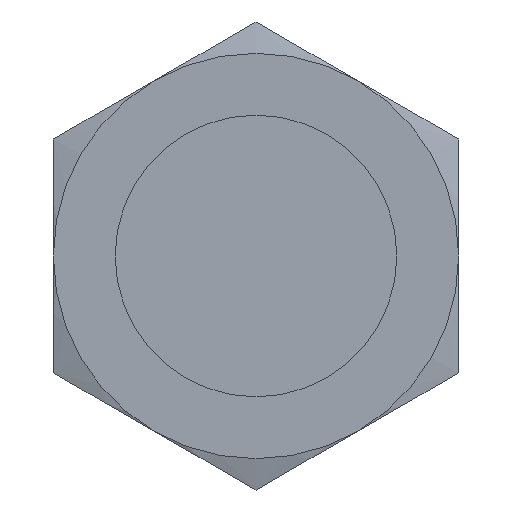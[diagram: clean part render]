
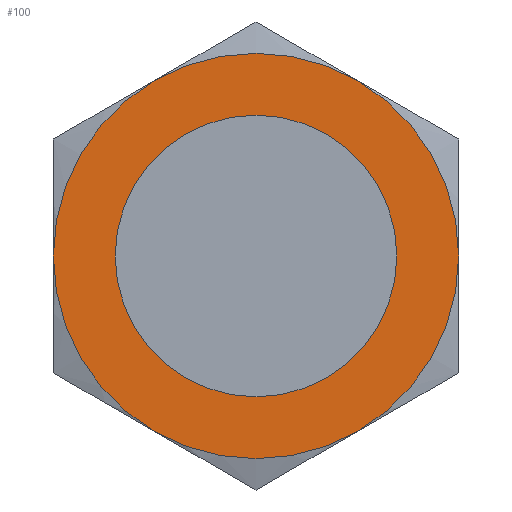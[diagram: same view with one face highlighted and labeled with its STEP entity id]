
A CAD part, front view. The second image highlights one B-rep face of the part: STEP entity #100.
In plain terms, the highlighted planar face has unit normal (0, -1, 0).
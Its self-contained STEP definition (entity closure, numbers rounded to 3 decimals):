
#100 = ADVANCED_FACE( '', ( #160, #161 ), #162, .T. );
#160 = FACE_OUTER_BOUND( '', #232, .T. );
#161 = FACE_BOUND( '', #233, .T. );
#162 = PLANE( '', #234 );
#232 = EDGE_LOOP( '', ( #429, #430, #431, #432, #433, #434 ) );
#233 = EDGE_LOOP( '', ( #435, #436 ) );
#234 = AXIS2_PLACEMENT_3D( '', #437, #438, #439 );
#429 = ORIENTED_EDGE( '', *, *, #551, .F. );
#430 = ORIENTED_EDGE( '', *, *, #552, .F. );
#431 = ORIENTED_EDGE( '', *, *, #553, .F. );
#432 = ORIENTED_EDGE( '', *, *, #554, .F. );
#433 = ORIENTED_EDGE( '', *, *, #555, .F. );
#434 = ORIENTED_EDGE( '', *, *, #556, .F. );
#435 = ORIENTED_EDGE( '', *, *, #517, .T. );
#436 = ORIENTED_EDGE( '', *, *, #558, .T. );
#437 = CARTESIAN_POINT( '', ( 5.932, 4.3, 0. ) );
#438 = DIRECTION( '', ( 0., -1., 0. ) );
#439 = DIRECTION( '', ( -1., 0., 0. ) );
#517 = EDGE_CURVE( '', #603, #607, #609, .T. );
#551 = EDGE_CURVE( '', #614, #633, #663, .T. );
#552 = EDGE_CURVE( '', #657, #614, #664, .T. );
#553 = EDGE_CURVE( '', #649, #657, #665, .T. );
#554 = EDGE_CURVE( '', #640, #649, #666, .T. );
#555 = EDGE_CURVE( '', #625, #640, #667, .T. );
#556 = EDGE_CURVE( '', #633, #625, #668, .T. );
#558 = EDGE_CURVE( '', #607, #603, #670, .T. );
#603 = VERTEX_POINT( '', #723 );
#607 = VERTEX_POINT( '', #728 );
#609 = CIRCLE( '', #731, 4.864 );
#614 = VERTEX_POINT( '', #746 );
#625 = VERTEX_POINT( '', #795 );
#633 = VERTEX_POINT( '', #840 );
#640 = VERTEX_POINT( '', #892 );
#649 = VERTEX_POINT( '', #938 );
#657 = VERTEX_POINT( '', #983 );
#663 = CIRCLE( '', #1007, 7. );
#664 = CIRCLE( '', #1008, 7. );
#665 = CIRCLE( '', #1009, 7. );
#666 = CIRCLE( '', #1010, 7. );
#667 = CIRCLE( '', #1011, 7. );
#668 = CIRCLE( '', #1012, 7. );
#670 = CIRCLE( '', #1014, 4.864 );
#723 = CARTESIAN_POINT( '', ( 4.864, 4.3, 0. ) );
#728 = CARTESIAN_POINT( '', ( -4.864, 4.3, 0. ) );
#731 = AXIS2_PLACEMENT_3D( '', #1065, #1066, #1067 );
#746 = CARTESIAN_POINT( '', ( 7., 4.3, 0. ) );
#795 = CARTESIAN_POINT( '', ( -3.5, 4.3, -6.062 ) );
#840 = CARTESIAN_POINT( '', ( 3.5, 4.3, -6.062 ) );
#892 = CARTESIAN_POINT( '', ( -7., 4.3, 0. ) );
#938 = CARTESIAN_POINT( '', ( -3.5, 4.3, 6.062 ) );
#983 = CARTESIAN_POINT( '', ( 3.5, 4.3, 6.062 ) );
#1007 = AXIS2_PLACEMENT_3D( '', #1083, #1084, #1085 );
#1008 = AXIS2_PLACEMENT_3D( '', #1086, #1087, #1088 );
#1009 = AXIS2_PLACEMENT_3D( '', #1089, #1090, #1091 );
#1010 = AXIS2_PLACEMENT_3D( '', #1092, #1093, #1094 );
#1011 = AXIS2_PLACEMENT_3D( '', #1095, #1096, #1097 );
#1012 = AXIS2_PLACEMENT_3D( '', #1098, #1099, #1100 );
#1014 = AXIS2_PLACEMENT_3D( '', #1104, #1105, #1106 );
#1065 = CARTESIAN_POINT( '', ( 0., 4.3, 0. ) );
#1066 = DIRECTION( '', ( 0., 1., 0. ) );
#1067 = DIRECTION( '', ( 1., 0., 0. ) );
#1083 = CARTESIAN_POINT( '', ( 0., 4.3, 0. ) );
#1084 = DIRECTION( '', ( 0., 1., 0. ) );
#1085 = DIRECTION( '', ( 1., 0., 0. ) );
#1086 = CARTESIAN_POINT( '', ( 0., 4.3, 0. ) );
#1087 = DIRECTION( '', ( 0., 1., 0. ) );
#1088 = DIRECTION( '', ( 1., 0., 0. ) );
#1089 = CARTESIAN_POINT( '', ( 0., 4.3, 0. ) );
#1090 = DIRECTION( '', ( 0., 1., 0. ) );
#1091 = DIRECTION( '', ( 1., 0., 0. ) );
#1092 = CARTESIAN_POINT( '', ( 0., 4.3, 0. ) );
#1093 = DIRECTION( '', ( 0., 1., 0. ) );
#1094 = DIRECTION( '', ( 1., 0., 0. ) );
#1095 = CARTESIAN_POINT( '', ( 0., 4.3, 0. ) );
#1096 = DIRECTION( '', ( 0., 1., 0. ) );
#1097 = DIRECTION( '', ( 1., 0., 0. ) );
#1098 = CARTESIAN_POINT( '', ( 0., 4.3, 0. ) );
#1099 = DIRECTION( '', ( 0., 1., 0. ) );
#1100 = DIRECTION( '', ( 1., 0., 0. ) );
#1104 = CARTESIAN_POINT( '', ( 0., 4.3, 0. ) );
#1105 = DIRECTION( '', ( 0., 1., 0. ) );
#1106 = DIRECTION( '', ( 1., 0., 0. ) );
